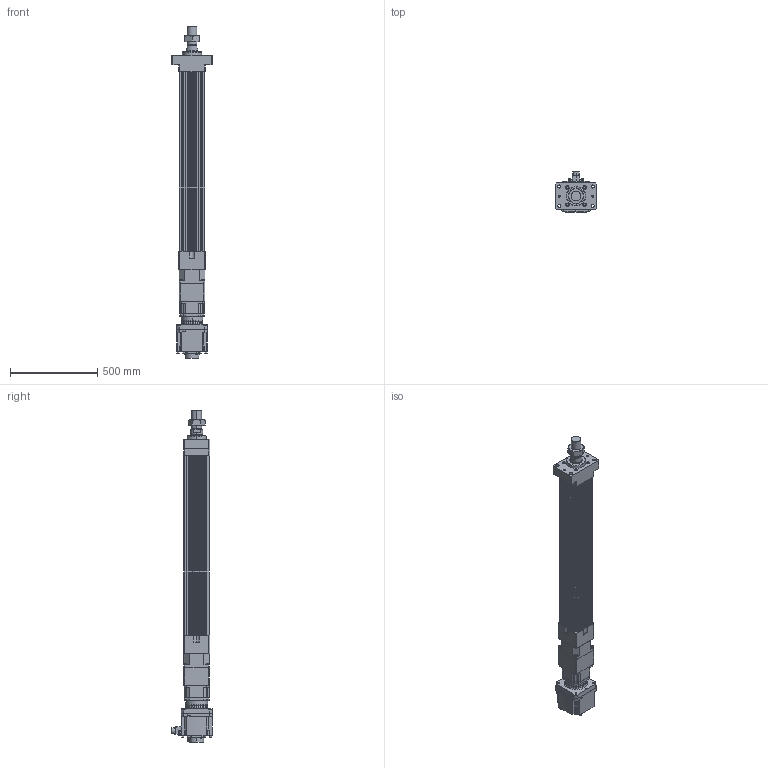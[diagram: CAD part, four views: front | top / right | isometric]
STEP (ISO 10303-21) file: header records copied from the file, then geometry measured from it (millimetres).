
FILE_DESCRIPTION (( 'STEP AP203' ), '1' );
FILE_NAME ('HES150NS(HS)-S750-W035G00-M-FM.STEP', '2023-02-01T04:53:09', ( 'tms' ), ( '' ), 'SwSTEP 2.0', 'SolidWorks 2013', '' );
FILE_SCHEMA (( 'CONFIG_CONTROL_DESIGN' ));
Length unit declared in the file: millimetre
Products named in the file (9): HES150 ROD M ST750; HES150NS(HS)-S750-W035G00-M-FM; HES150-S750-G142-FM; HG-SR352; AB142-003[HG-SR352]; M56X2.0P; P1301500001; AB1421; P0403500801
Assembly tree (8 placements, depth 3):
  HES150NS(HS)-S750-W035G00-M-FM
    HES150-S750-G142-FM
    HES150 ROD M ST750
    M56X2.0P
    AB142-003[HG-SR352]
      AB1421
      P1301500001
      P0403500801
    HG-SR352
Bounding box: 230 x 228.85 x 1897.5 mm (x, y, z)
Volume: 21496368.7 mm3; surface area: 2389781.4 mm2
Topology: 5 solids, 23 shells, 1508 faces, 3908 edges, 2538 vertices
Faces by surface type: cylinder 687, plane 587, cone 152, bspline 76, torus 6
Entity records: 55082 total; most frequent: CARTESIAN_POINT 16753, DIRECTION 8014, ORIENTED_EDGE 7718, EDGE_CURVE 3881, AXIS2_PLACEMENT_3D 3024, VERTEX_POINT 2538, VECTOR 1966, LINE 1966
